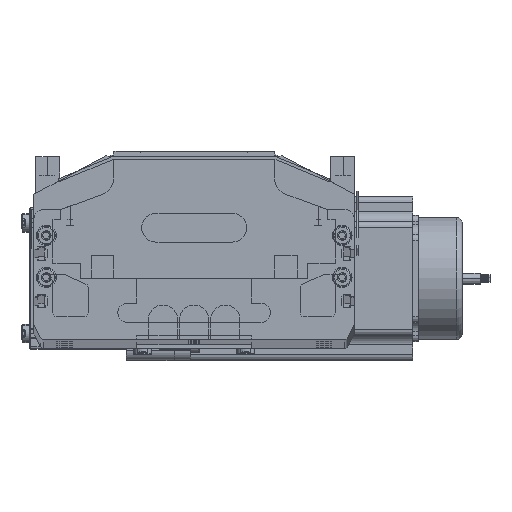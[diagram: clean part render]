
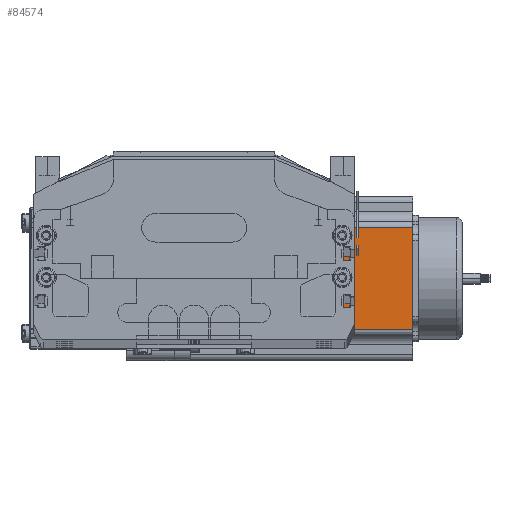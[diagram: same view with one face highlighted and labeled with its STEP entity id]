
A CAD part, top view. The second image highlights one B-rep face of the part: STEP entity #84574.
In plain terms, the highlighted planar face has unit normal (0, 0, 1) as drawn and (0, -1, 0) by its records, which use the part's own axes.
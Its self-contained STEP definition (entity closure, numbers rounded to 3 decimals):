
#38862 = CARTESIAN_POINT ( 'NONE',  ( 69.74, 0., 0. ) ) ;
#38940 = CARTESIAN_POINT ( 'NONE',  ( 16.16, 0., 0. ) ) ;
#38988 = LINE ( 'NONE', #39054, #39053 ) ;
#39002 = DIRECTION ( 'NONE',  ( 1., 0., 0. ) ) ;
#39003 = VECTOR ( 'NONE', #39002, 1000. ) ;
#39004 = CARTESIAN_POINT ( 'NONE',  ( 0., 0., 0. ) ) ;
#39006 = DIRECTION ( 'NONE',  ( 0., 0., 1. ) ) ;
#39007 = VECTOR ( 'NONE', #39006, 1000. ) ;
#39008 = CARTESIAN_POINT ( 'NONE',  ( 69.74, 0., 116.5 ) ) ;
#39009 = LINE ( 'NONE', #39008, #39007 ) ;
#39011 = CARTESIAN_POINT ( 'NONE',  ( 16.16, 0., 116.5 ) ) ;
#39016 = LINE ( 'NONE', #39004, #39003 ) ;
#39037 = DIRECTION ( 'NONE',  ( 0., 0., -1. ) ) ;
#39038 = VECTOR ( 'NONE', #39037, 1000. ) ;
#39039 = CARTESIAN_POINT ( 'NONE',  ( 16.16, 0., 116.5 ) ) ;
#39042 = LINE ( 'NONE', #39039, #39038 ) ;
#39052 = DIRECTION ( 'NONE',  ( 1., 0., 0. ) ) ;
#39053 = VECTOR ( 'NONE', #39052, 1000. ) ;
#39054 = CARTESIAN_POINT ( 'NONE',  ( 0., 0., 116.5 ) ) ;
#39140 = AXIS2_PLACEMENT_3D ( 'NONE', #39162, #39200, #39199 ) ;
#39145 = CARTESIAN_POINT ( 'NONE',  ( 69.74, 0., 116.5 ) ) ;
#39149 = PLANE ( 'NONE',  #39140 ) ;
#39150 = FACE_OUTER_BOUND ( 'NONE', #84579, .T. ) ;
#39162 = CARTESIAN_POINT ( 'NONE',  ( 0., 0., 116.5 ) ) ;
#39199 = DIRECTION ( 'NONE',  ( 0., 0., 1. ) ) ;
#39200 = DIRECTION ( 'NONE',  ( 0., 1., 0. ) ) ;
#84396 = VERTEX_POINT ( 'NONE', #38862 ) ;
#84425 = ORIENTED_EDGE ( 'NONE', *, *, #84481, .T. ) ;
#84457 = VERTEX_POINT ( 'NONE', #38940 ) ;
#84476 = ORIENTED_EDGE ( 'NONE', *, *, #84478, .T. ) ;
#84478 = EDGE_CURVE ( 'NONE', #84396, #84572, #39009, .T. ) ;
#84481 = EDGE_CURVE ( 'NONE', #84457, #84396, #39016, .T. ) ;
#84485 = ORIENTED_EDGE ( 'NONE', *, *, #84489, .F. ) ;
#84489 = EDGE_CURVE ( 'NONE', #84491, #84572, #38988, .T. ) ;
#84491 = VERTEX_POINT ( 'NONE', #39011 ) ;
#84500 = EDGE_CURVE ( 'NONE', #84491, #84457, #39042, .T. ) ;
#84566 = ORIENTED_EDGE ( 'NONE', *, *, #84500, .T. ) ;
#84572 = VERTEX_POINT ( 'NONE', #39145 ) ;
#84574 = ADVANCED_FACE ( 'NONE', ( #39150 ), #39149, .F. ) ;
#84579 = EDGE_LOOP ( 'NONE', ( #84425, #84476, #84485, #84566 ) ) ;
